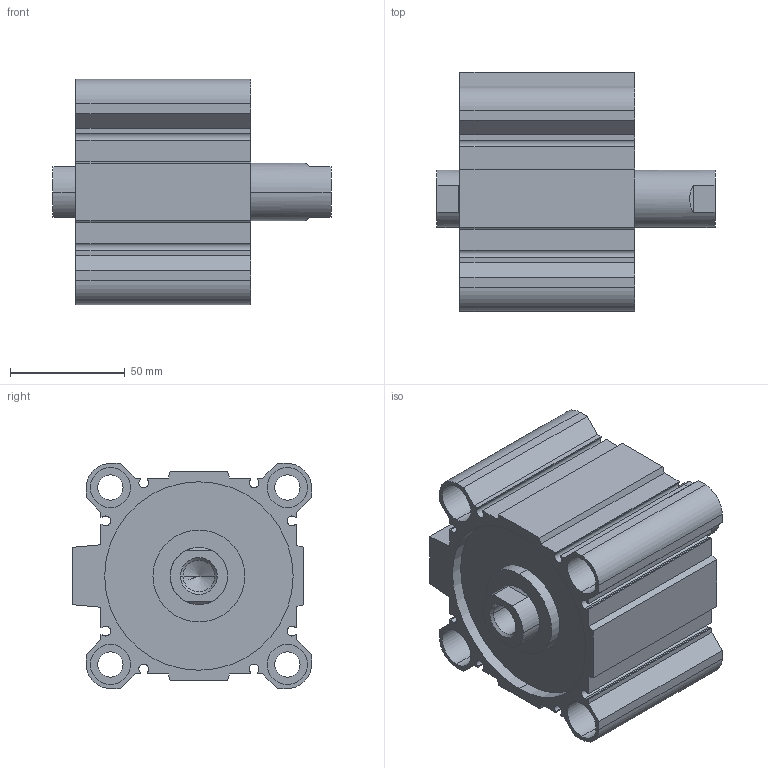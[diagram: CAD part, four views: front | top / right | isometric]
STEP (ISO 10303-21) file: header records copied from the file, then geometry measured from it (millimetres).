
FILE_DESCRIPTION (( 'STEP AP203' ), '1' );
FILE_NAME ('CCMB80-25F-P.STEP', '2020-08-05T11:49:27', ( '' ), ( '' ), 'SwSTEP 2.0', 'SolidWorks 2019', '' );
FILE_SCHEMA (( 'CONFIG_CONTROL_DESIGN' ));
Length unit declared in the file: millimetre
Products named in the file (1): CCMB80-25F-P
Bounding box: 121 x 104 x 98 mm (x, y, z)
Volume: 447972.5 mm3; surface area: 121589.9 mm2
Topology: 2 solids, 2 shells, 176 faces, 450 edges, 294 vertices
Faces by surface type: plane 90, cylinder 74, cone 12
Entity records: 5425 total; most frequent: DIRECTION 956, CARTESIAN_POINT 929, ORIENTED_EDGE 892, EDGE_CURVE 446, AXIS2_PLACEMENT_3D 337, VERTEX_POINT 294, LINE 282, VECTOR 282
